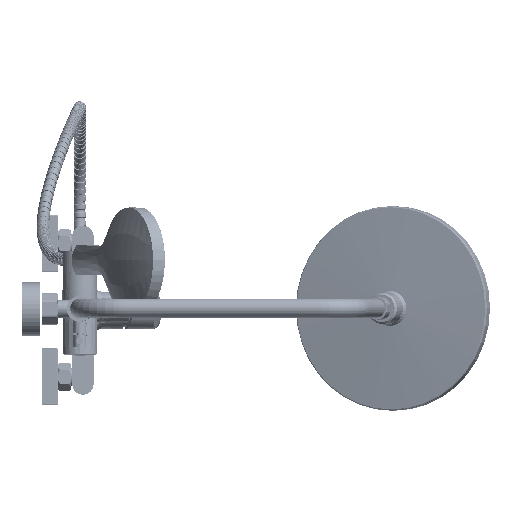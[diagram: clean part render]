
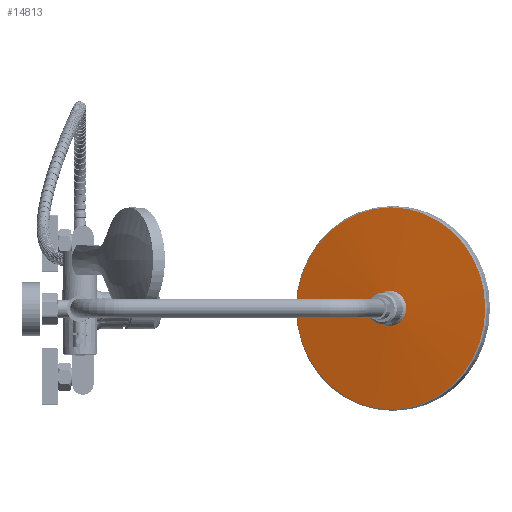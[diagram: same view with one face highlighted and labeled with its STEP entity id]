
A CAD part, top view. The second image highlights one B-rep face of the part: STEP entity #14813.
In plain terms, the highlighted spherical face has radius 1655.12 mm.
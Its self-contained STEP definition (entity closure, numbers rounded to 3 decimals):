
#146=SPHERICAL_SURFACE('',#50822,1655.125);
#4419=FACE_BOUND('',#23262,.T.);
#4420=FACE_BOUND('',#23263,.T.);
#11205=CIRCLE('',#50820,113.603);
#11206=CIRCLE('',#50821,17.5);
#14813=ADVANCED_FACE('',(#4419,#4420),#146,.T.);
#23262=EDGE_LOOP('',(#31449));
#23263=EDGE_LOOP('',(#31450));
#31449=ORIENTED_EDGE('',*,*,#43502,.T.);
#31450=ORIENTED_EDGE('',*,*,#43503,.F.);
#38975=VERTEX_POINT('',#78952);
#38976=VERTEX_POINT('',#78954);
#43502=EDGE_CURVE('',#38975,#38975,#11205,.T.);
#43503=EDGE_CURVE('',#38976,#38976,#11206,.T.);
#50820=AXIS2_PLACEMENT_3D('',#78951,#62023,#62024);
#50821=AXIS2_PLACEMENT_3D('',#78953,#62025,#62026);
#50822=AXIS2_PLACEMENT_3D('',#78955,#62027,#62028);
#62023=DIRECTION('',(-0.359,0.,0.933));
#62024=DIRECTION('',(-0.933,0.,-0.359));
#62025=DIRECTION('',(-0.359,0.,0.933));
#62026=DIRECTION('',(-0.933,0.,-0.359));
#62027=DIRECTION('',(-0.359,0.,0.933));
#62028=DIRECTION('',(-0.933,0.,-0.359));
#78951=CARTESIAN_POINT('',(346.29,-0.015,1196.114));
#78952=CARTESIAN_POINT('',(240.269,-0.015,1155.307));
#78953=CARTESIAN_POINT('',(344.921,-0.015,1199.671));
#78954=CARTESIAN_POINT('',(328.589,-0.015,1193.385));
#78955=CARTESIAN_POINT('',(939.421,-0.015,-344.901));
